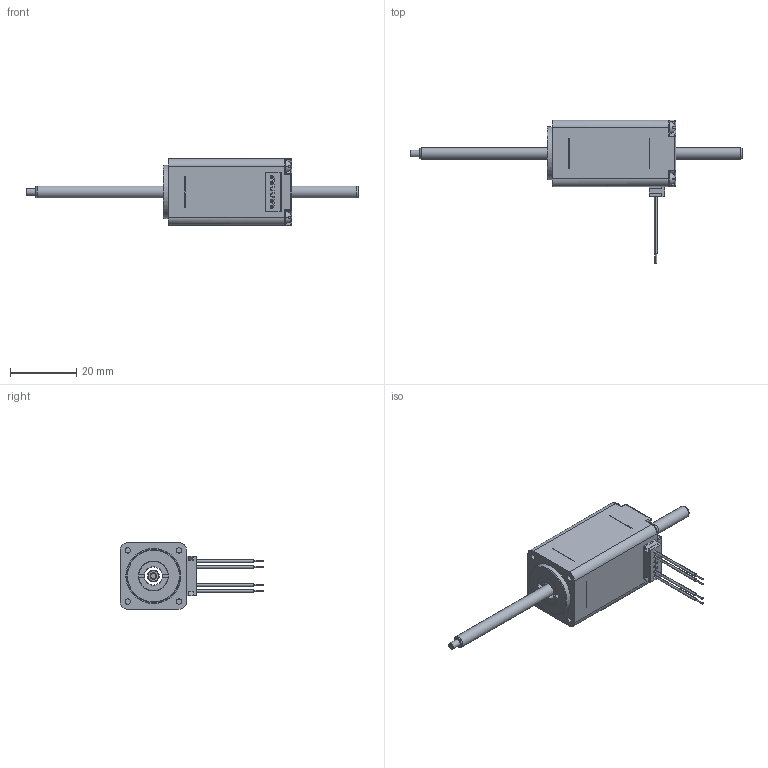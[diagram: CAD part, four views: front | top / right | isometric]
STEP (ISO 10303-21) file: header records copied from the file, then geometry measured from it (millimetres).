
FILE_DESCRIPTION( ('This file contains a STEP AP42 implementation' ,'as created by ZW3D STEP Interface translator.' ,'') ,'2;1' );
FILE_NAME( '21NC4X-XX-XXX.stp' ,'251231.14 2 0', (''), ('ZWCAD Software Co.'), 'Version 1.0', 'ZW3D to STEP translator', '' );
FILE_SCHEMA(('AUTOMOTIVE_DESIGN { 1 0 10303 214 1 1 1 1 }'));
Length unit declared in the file: millimetre
Products named in the file (1): 0
Bounding box: 100 x 43.25 x 20 mm (x, y, z)
Volume: 7785.5 mm3; surface area: 11046.5 mm2
Topology: 2 solids, 2 shells, 1007 faces, 2960 edges, 1916 vertices
Faces by surface type: plane 639, cylinder 265, bspline 49, sphere 32, torus 16, cone 6
Full cylindrical faces by diameter (mm): 0.67 x8, 1.6 x4, 2 x1, 2.2 x8, 3.56 x1, 5.5 x2, 9 x3, 12.24 x1, 12.7 x1, 16 x1, 16.6 x1
Entity records: 37528 total; most frequent: CARTESIAN_POINT 9335, ORIENTED_EDGE 5906, DIRECTION 5536, EDGE_CURVE 2953, VECTOR 1920, LINE 1920, VERTEX_POINT 1916, AXIS2_PLACEMENT_3D 1808
